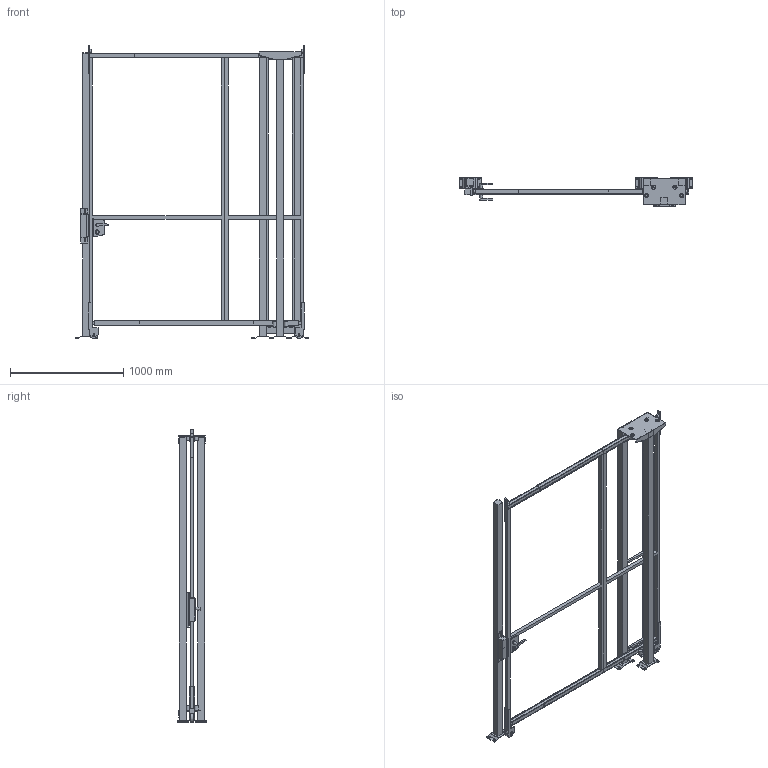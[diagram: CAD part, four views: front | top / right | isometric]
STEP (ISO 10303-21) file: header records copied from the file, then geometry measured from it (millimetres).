
FILE_DESCRIPTION(/* description */ (''),/* implementation_level */ '2;1');
FILE_NAME(/* name */ 'C:\SafeGuarding\ELABORATI\KLADKOUGAMMA_2025-03-21-11-36-57.stp',/* time_stamp */ '2025-03-21T11:37:01+01:00',/* author */ ('admin'),/* organization */ (''),/* preprocessor_version */ 'ST-DEVELOPER v18.1',/* originating_system */ 'AutoCAD Mechanical',/* authorisation */ '');
FILE_SCHEMA (('AUTOMOTIVE_DESIGN { 1 0 10303 214 3 1 1 }'));
Length unit declared in the file: millimetre
Products named in the file (5): Product; VFPA.REPE30.07002400; VFPA.REPE30.12002400; VFPA.REPE2002502400; P_VFMA.V260SDU.2520
Assembly tree (7 placements, depth 2):
  Product
    VFPA.REPE30.07002400
    VFPA.REPE30.12002400
    P_VFMA.V260SDU.2520  x4
    VFPA.REPE2002502400
Bounding box: 2061.91 x 264 x 2590.02 mm (x, y, z)
Volume: 56453157.4 mm3; surface area: 7121888.9 mm2
Topology: 55 solids, 55 shells, 554 faces, 1652 edges, 1560 vertices
Faces by surface type: plane 476, cylinder 74, bspline 4
Full cylindrical faces by diameter (mm): 9 x4, 11 x16, 13 x4, 18 x1, 25 x2, 25.398 x2, 30 x6, 36 x8, 80 x2
Entity records: 16847 total; most frequent: CARTESIAN_POINT 4406, DIRECTION 2476, ORIENTED_EDGE 2206, LINE 1132, VECTOR 1132, EDGE_CURVE 1103, VERTEX_POINT 742, AXIS2_PLACEMENT_3D 672
